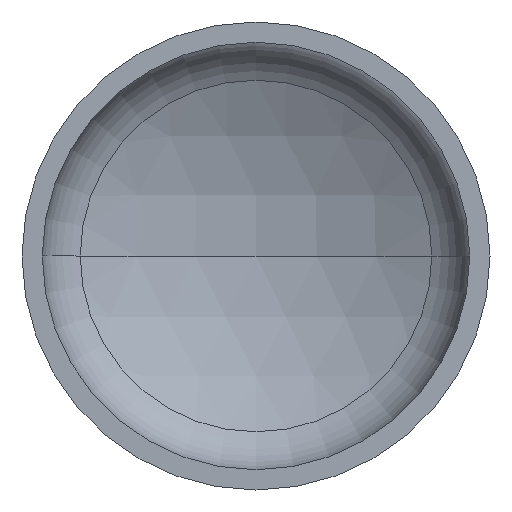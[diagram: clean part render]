
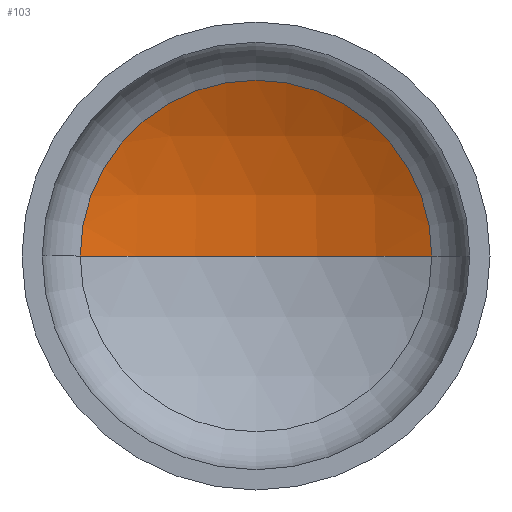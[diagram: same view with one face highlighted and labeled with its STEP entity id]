
A CAD part, front view. The second image highlights one B-rep face of the part: STEP entity #103.
In plain terms, the highlighted spherical face has radius 1440 mm.
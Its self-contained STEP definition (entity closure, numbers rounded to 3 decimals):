
#26 = ORIENTED_EDGE ( 'NONE', *, *, #226, .T. ) ;
#32 = FACE_OUTER_BOUND ( 'NONE', #325, .T. ) ;
#52 = ORIENTED_EDGE ( 'NONE', *, *, #231, .F. ) ;
#68 = CARTESIAN_POINT ( 'NONE',  ( 676.12, 362.802, 0. ) ) ;
#72 = AXIS2_PLACEMENT_3D ( 'NONE', #159, #220, #214 ) ;
#77 = CIRCLE ( 'NONE', #72, 1440. ) ;
#78 = AXIS2_PLACEMENT_3D ( 'NONE', #119, #142, #145 ) ;
#85 = DIRECTION ( 'NONE',  ( 1., 0., 0. ) ) ;
#87 = AXIS2_PLACEMENT_3D ( 'NONE', #373, #315, #85 ) ;
#103 = ADVANCED_FACE ( 'NONE', ( #32 ), #372, .F. ) ;
#119 = CARTESIAN_POINT ( 'NONE',  ( 0., -908.599, 0. ) ) ;
#142 = DIRECTION ( 'NONE',  ( 0., 0., -1. ) ) ;
#145 = DIRECTION ( 'NONE',  ( -1., 0., 0. ) ) ;
#153 = AXIS2_PLACEMENT_3D ( 'NONE', #184, #176, #185 ) ;
#159 = CARTESIAN_POINT ( 'NONE',  ( 0., -908.599, 0. ) ) ;
#176 = DIRECTION ( 'NONE',  ( 0., 0., -1. ) ) ;
#184 = CARTESIAN_POINT ( 'NONE',  ( 0., -908.599, 0. ) ) ;
#185 = DIRECTION ( 'NONE',  ( -1., 0., 0. ) ) ;
#209 = VERTEX_POINT ( 'NONE', #271 ) ;
#214 = DIRECTION ( 'NONE',  ( 1., 0., 0. ) ) ;
#220 = DIRECTION ( 'NONE',  ( 0., 0., 1. ) ) ;
#223 = EDGE_CURVE ( 'NONE', #322, #308, #261, .T. ) ;
#226 = EDGE_CURVE ( 'NONE', #209, #322, #410, .T. ) ;
#231 = EDGE_CURVE ( 'NONE', #209, #308, #77, .T. ) ;
#261 = CIRCLE ( 'NONE', #87, 676.12 ) ;
#271 = CARTESIAN_POINT ( 'NONE',  ( 0., 531.401, 0. ) ) ;
#308 = VERTEX_POINT ( 'NONE', #389 ) ;
#315 = DIRECTION ( 'NONE',  ( 0., -1., 0. ) ) ;
#322 = VERTEX_POINT ( 'NONE', #68 ) ;
#325 = EDGE_LOOP ( 'NONE', ( #52, #26, #391 ) ) ;
#372 = SPHERICAL_SURFACE ( 'NONE', #153, 1440. ) ;
#373 = CARTESIAN_POINT ( 'NONE',  ( 0., 362.802, 0. ) ) ;
#389 = CARTESIAN_POINT ( 'NONE',  ( -676.12, 362.802, 0. ) ) ;
#391 = ORIENTED_EDGE ( 'NONE', *, *, #223, .T. ) ;
#410 = CIRCLE ( 'NONE', #78, 1440. ) ;
